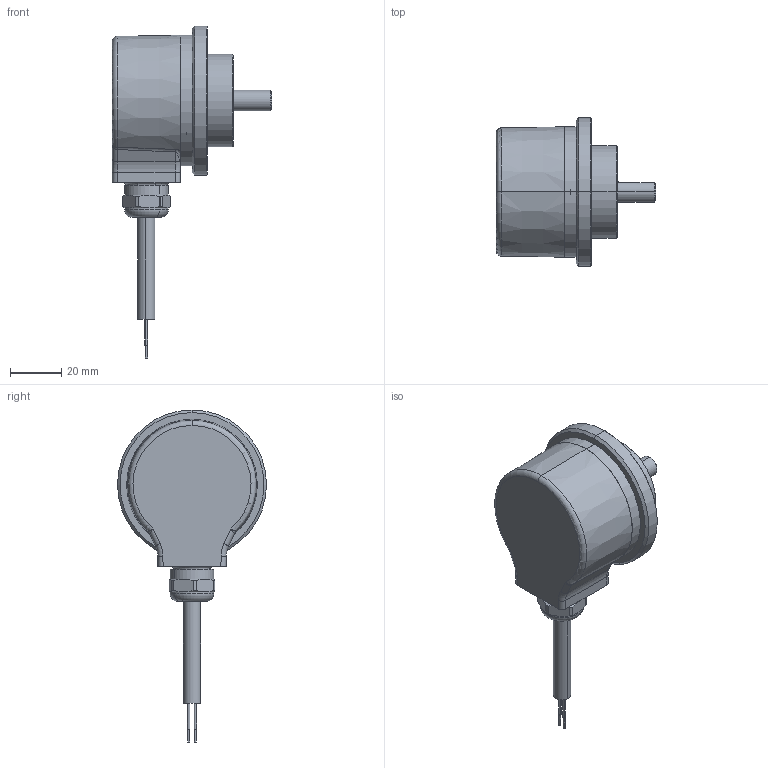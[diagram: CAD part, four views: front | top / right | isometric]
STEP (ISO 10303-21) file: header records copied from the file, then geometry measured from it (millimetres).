
FILE_DESCRIPTION (( 'STEP AP203' ), '1' );
FILE_NAME ('8.5000.86X2.XXXX.STEP', '2012-01-30T10:36:49', ( 'admin' ), ( 'Fritz Kübler GmbH' ), 'SwSTEP 2.0', 'SolidWorks 2009', '' );
FILE_SCHEMA (( 'CONFIG_CONTROL_DESIGN' ));
Length unit declared in the file: millimetre
Products named in the file (1): 8.5000.86X2.XXXX
Bounding box: 62 x 58 x 129.2 mm (x, y, z)
Volume: 55380.3 mm3; surface area: 35320 mm2
Topology: 7 solids, 7 shells, 378 faces, 895 edges, 534 vertices
Faces by surface type: cylinder 130, plane 82, cone 81, torus 57, sphere 20, bspline 8
Entity records: 12299 total; most frequent: CARTESIAN_POINT 3739, DIRECTION 1917, ORIENTED_EDGE 1654, EDGE_CURVE 827, AXIS2_PLACEMENT_3D 823, VERTEX_POINT 504, CIRCLE 452, EDGE_LOOP 449
